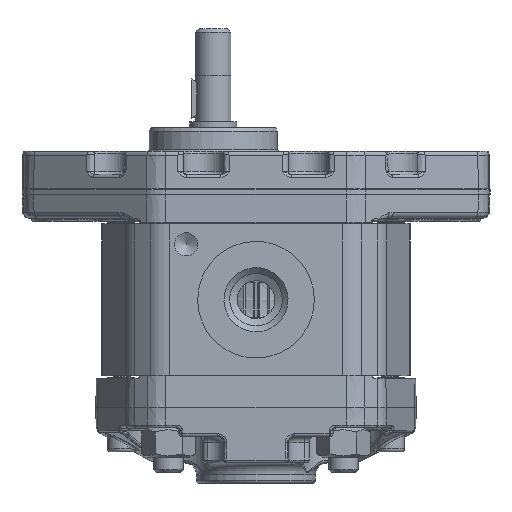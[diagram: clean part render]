
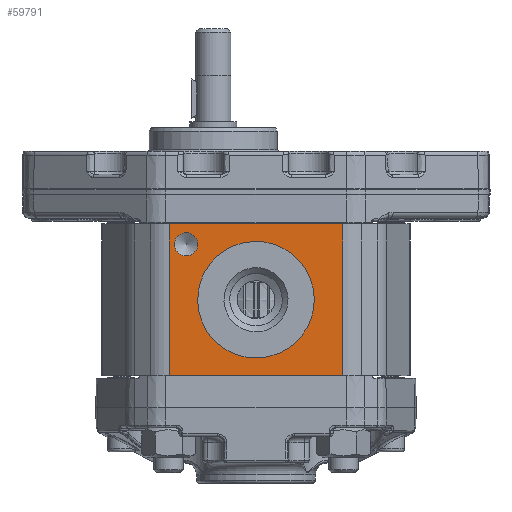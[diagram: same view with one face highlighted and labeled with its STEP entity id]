
A CAD part, left-side view. The second image highlights one B-rep face of the part: STEP entity #59791.
In plain terms, the highlighted planar face has unit normal (-1, 0, 0).
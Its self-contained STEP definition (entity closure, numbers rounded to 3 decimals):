
#59711=CARTESIAN_POINT('',(-25.,-22.207,-12.5));
#59712=VERTEX_POINT('',#59711);
#59720=CARTESIAN_POINT('',(-25.,-22.207,-38.5));
#59721=VERTEX_POINT('',#59720);
#59722=CARTESIAN_POINT('',(-25.,-22.207,-12.5));
#59723=DIRECTION('',(0.0,0.0,-1.0));
#59724=VECTOR('',#59723,26.0);
#59725=LINE('',#59722,#59724);
#59726=EDGE_CURVE('',#59712,#59721,#59725,.T.);
#59739=CARTESIAN_POINT('',(-25.,9.377,-25.5));
#59740=DIRECTION('',(-1.0,0.0,0.0));
#59741=DIRECTION('',(0.0,0.0,1.0));
#59742=AXIS2_PLACEMENT_3D('',#59739,#59740,#59741);
#59743=PLANE('',#59742);
#59744=CARTESIAN_POINT('',(-25.,7.557,-38.5));
#59745=VERTEX_POINT('',#59744);
#59746=CARTESIAN_POINT('',(-25.,7.557,-12.5));
#59747=VERTEX_POINT('',#59746);
#59748=CARTESIAN_POINT('',(-25.,7.557,-38.5));
#59749=DIRECTION('',(0.0,0.0,1.0));
#59750=VECTOR('',#59749,26.0);
#59751=LINE('',#59748,#59750);
#59752=EDGE_CURVE('',#59745,#59747,#59751,.T.);
#59753=ORIENTED_EDGE('',*,*,#59752,.F.);
#59754=CARTESIAN_POINT('',(-25.,7.557,-38.5));
#59755=DIRECTION('',(0.0,-1.0,0.0));
#59756=VECTOR('',#59755,29.764);
#59757=LINE('',#59754,#59756);
#59758=EDGE_CURVE('',#59745,#59721,#59757,.T.);
#59759=ORIENTED_EDGE('',*,*,#59758,.T.);
#59760=ORIENTED_EDGE('',*,*,#59726,.F.);
#59761=CARTESIAN_POINT('',(-25.,-22.207,-12.5));
#59762=DIRECTION('',(0.0,1.0,0.0));
#59763=VECTOR('',#59762,29.764);
#59764=LINE('',#59761,#59763);
#59765=EDGE_CURVE('',#59712,#59747,#59764,.T.);
#59766=ORIENTED_EDGE('',*,*,#59765,.T.);
#59767=EDGE_LOOP('',(#59753,#59759,#59760,#59766));
#59768=FACE_OUTER_BOUND('',#59767,.T.);
#59769=CARTESIAN_POINT('',(-25.,-3.496,-16.262));
#59770=VERTEX_POINT('',#59769);
#59771=CARTESIAN_POINT('',(-25.,-7.325,-25.5));
#59772=DIRECTION('',(1.0,0.,0.));
#59773=DIRECTION('',(0.,0.383,0.924));
#59774=AXIS2_PLACEMENT_3D('',#59771,#59772,#59773);
#59775=CIRCLE('',#59774,10.);
#59776=EDGE_CURVE('',#59770,#59770,#59775,.T.);
#59777=ORIENTED_EDGE('',*,*,#59776,.T.);
#59778=EDGE_LOOP('',(#59777));
#59779=FACE_BOUND('',#59778,.T.);
#59780=CARTESIAN_POINT('',(-25.,4.675,-14.));
#59781=VERTEX_POINT('',#59780);
#59782=CARTESIAN_POINT('',(-25.,4.675,-16.));
#59783=DIRECTION('',(1.0,0.0,0.0));
#59784=DIRECTION('',(0.0,0.0,1.0));
#59785=AXIS2_PLACEMENT_3D('',#59782,#59783,#59784);
#59786=CIRCLE('',#59785,2.0);
#59787=EDGE_CURVE('',#59781,#59781,#59786,.T.);
#59788=ORIENTED_EDGE('',*,*,#59787,.T.);
#59789=EDGE_LOOP('',(#59788));
#59790=FACE_BOUND('',#59789,.T.);
#59791=ADVANCED_FACE('',(#59768,#59779,#59790),#59743,.T.);
